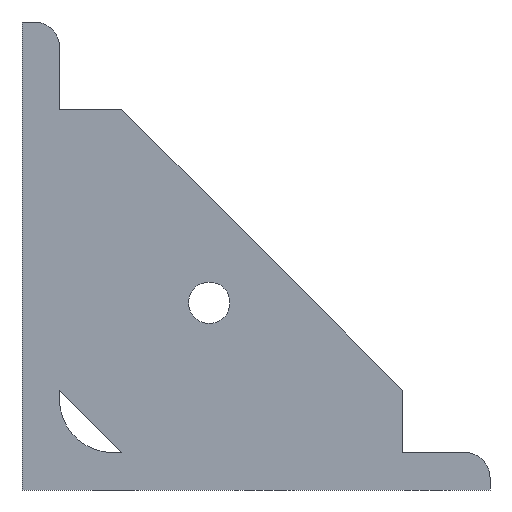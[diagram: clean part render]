
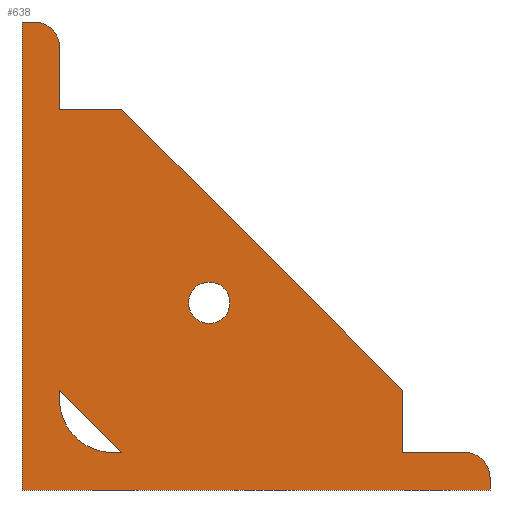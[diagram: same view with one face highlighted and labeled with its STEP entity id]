
A CAD part, left-side view. The second image highlights one B-rep face of the part: STEP entity #638.
In plain terms, the highlighted planar face has unit normal (-1, 0, 0).
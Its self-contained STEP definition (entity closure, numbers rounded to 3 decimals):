
#36=LINE('',#848,#77);
#40=LINE('',#856,#81);
#43=LINE('',#869,#84);
#47=LINE('',#877,#88);
#52=LINE('',#888,#93);
#54=LINE('',#898,#95);
#57=LINE('',#910,#98);
#60=LINE('',#916,#101);
#63=LINE('',#928,#104);
#64=LINE('',#932,#105);
#65=LINE('',#934,#106);
#66=LINE('',#935,#107);
#77=VECTOR('',#716,1000.);
#81=VECTOR('',#720,1000.);
#84=VECTOR('',#731,1000.);
#88=VECTOR('',#735,1000.);
#93=VECTOR('',#742,1000.);
#95=VECTOR('',#752,1000.);
#98=VECTOR('',#763,1000.);
#101=VECTOR('',#768,1000.);
#104=VECTOR('',#783,1000.);
#105=VECTOR('',#788,1000.);
#106=VECTOR('',#789,1000.);
#107=VECTOR('',#790,1000.);
#169=ORIENTED_EDGE('',*,*,#286,.T.);
#170=ORIENTED_EDGE('',*,*,#287,.F.);
#171=ORIENTED_EDGE('',*,*,#247,.F.);
#172=ORIENTED_EDGE('',*,*,#288,.T.);
#173=ORIENTED_EDGE('',*,*,#280,.F.);
#174=ORIENTED_EDGE('',*,*,#277,.F.);
#175=ORIENTED_EDGE('',*,*,#271,.F.);
#176=ORIENTED_EDGE('',*,*,#266,.F.);
#177=ORIENTED_EDGE('',*,*,#289,.T.);
#178=ORIENTED_EDGE('',*,*,#261,.F.);
#179=ORIENTED_EDGE('',*,*,#290,.F.);
#180=ORIENTED_EDGE('',*,*,#291,.F.);
#181=ORIENTED_EDGE('',*,*,#251,.F.);
#182=ORIENTED_EDGE('',*,*,#292,.F.);
#183=ORIENTED_EDGE('',*,*,#257,.F.);
#184=ORIENTED_EDGE('',*,*,#293,.T.);
#247=EDGE_CURVE('',#310,#311,#36,.T.);
#251=EDGE_CURVE('',#314,#305,#40,.T.);
#257=EDGE_CURVE('',#320,#321,#43,.T.);
#261=EDGE_CURVE('',#324,#325,#47,.T.);
#266=EDGE_CURVE('',#329,#330,#52,.T.);
#271=EDGE_CURVE('',#330,#334,#54,.T.);
#277=EDGE_CURVE('',#334,#339,#57,.T.);
#280=EDGE_CURVE('',#339,#341,#60,.T.);
#286=EDGE_CURVE('',#343,#343,#364,.T.);
#287=EDGE_CURVE('',#311,#344,#63,.T.);
#288=EDGE_CURVE('',#310,#341,#365,.T.);
#289=EDGE_CURVE('',#329,#325,#366,.T.);
#290=EDGE_CURVE('',#345,#324,#64,.T.);
#291=EDGE_CURVE('',#344,#345,#65,.T.);
#292=EDGE_CURVE('',#321,#314,#66,.T.);
#293=EDGE_CURVE('',#320,#305,#367,.F.);
#305=VERTEX_POINT('',#838);
#310=VERTEX_POINT('',#847);
#311=VERTEX_POINT('',#849);
#314=VERTEX_POINT('',#855);
#320=VERTEX_POINT('',#868);
#321=VERTEX_POINT('',#870);
#324=VERTEX_POINT('',#876);
#325=VERTEX_POINT('',#878);
#329=VERTEX_POINT('',#887);
#330=VERTEX_POINT('',#889);
#334=VERTEX_POINT('',#899);
#339=VERTEX_POINT('',#911);
#341=VERTEX_POINT('',#917);
#343=VERTEX_POINT('',#927);
#344=VERTEX_POINT('',#929);
#345=VERTEX_POINT('',#933);
#364=CIRCLE('',#682,3.324);
#365=CIRCLE('',#683,4.);
#366=CIRCLE('',#684,4.);
#367=CIRCLE('',#685,8.5);
#386=EDGE_LOOP('',(#169));
#387=EDGE_LOOP('',(#170,#171,#172,#173,#174,#175,#176,#177,#178,#179,#180));
#388=EDGE_LOOP('',(#181,#182,#183,#184));
#429=FACE_BOUND('',#386,.T.);
#430=FACE_BOUND('',#387,.T.);
#431=FACE_BOUND('',#388,.T.);
#462=PLANE('',#681);
#638=ADVANCED_FACE('',(#429,#430,#431),#462,.T.);
#681=AXIS2_PLACEMENT_3D('',#925,#779,#780);
#682=AXIS2_PLACEMENT_3D('',#926,#781,#782);
#683=AXIS2_PLACEMENT_3D('',#930,#784,#785);
#684=AXIS2_PLACEMENT_3D('',#931,#786,#787);
#685=AXIS2_PLACEMENT_3D('',#936,#791,#792);
#716=DIRECTION('',(0.,0.,-1.));
#720=DIRECTION('',(0.,0.,-1.));
#731=DIRECTION('',(0.,-1.,0.));
#735=DIRECTION('',(0.,-1.,0.));
#742=DIRECTION('',(0.,0.,-1.));
#752=DIRECTION('',(0.,1.,0.));
#763=DIRECTION('',(0.,0.,1.));
#768=DIRECTION('',(0.,-1.,0.));
#779=DIRECTION('',(-1.,0.,0.));
#780=DIRECTION('',(0.,0.,1.));
#781=DIRECTION('',(1.,0.,0.));
#782=DIRECTION('',(0.,0.,1.));
#783=DIRECTION('',(0.,-1.,0.));
#784=DIRECTION('',(-1.,0.,0.));
#785=DIRECTION('',(0.,0.,1.));
#786=DIRECTION('',(-1.,0.,0.));
#787=DIRECTION('',(0.,0.,1.));
#788=DIRECTION('',(0.,0.,-1.));
#789=DIRECTION('',(0.,-0.707,-0.707));
#790=DIRECTION('',(0.,0.707,0.707));
#791=DIRECTION('',(-1.,0.,0.));
#792=DIRECTION('',(0.,0.,1.));
#838=CARTESIAN_POINT('',(-14.5,-6.,14.5));
#847=CARTESIAN_POINT('',(-14.5,-6.,71.));
#848=CARTESIAN_POINT('',(-14.5,-6.,75.));
#849=CARTESIAN_POINT('',(-14.5,-6.,61.));
#855=CARTESIAN_POINT('',(-14.5,-6.,16.));
#856=CARTESIAN_POINT('',(-14.5,-6.,75.));
#868=CARTESIAN_POINT('',(-14.5,-14.5,6.));
#869=CARTESIAN_POINT('',(-14.5,-6.,6.));
#870=CARTESIAN_POINT('',(-14.5,-16.,6.));
#876=CARTESIAN_POINT('',(-14.5,-61.,6.));
#877=CARTESIAN_POINT('',(-14.5,-6.,6.));
#878=CARTESIAN_POINT('',(-14.5,-71.,6.));
#887=CARTESIAN_POINT('',(-14.5,-75.,2.));
#888=CARTESIAN_POINT('',(-14.5,-75.,6.));
#889=CARTESIAN_POINT('',(-14.5,-75.,0.));
#898=CARTESIAN_POINT('',(-14.5,-75.,0.));
#899=CARTESIAN_POINT('',(-14.5,0.,0.));
#910=CARTESIAN_POINT('',(-14.5,0.,0.));
#911=CARTESIAN_POINT('',(-14.5,0.,75.));
#916=CARTESIAN_POINT('',(-14.5,0.,75.));
#917=CARTESIAN_POINT('',(-14.5,-2.,75.));
#925=CARTESIAN_POINT('',(-14.5,0.,0.));
#926=CARTESIAN_POINT('',(-14.5,-30.,30.));
#927=CARTESIAN_POINT('',(-14.5,-30.,33.324));
#928=CARTESIAN_POINT('',(-14.5,-6.,61.));
#929=CARTESIAN_POINT('',(-14.5,-16.,61.));
#930=CARTESIAN_POINT('',(-14.5,-2.,71.));
#931=CARTESIAN_POINT('',(-14.5,-71.,2.));
#932=CARTESIAN_POINT('',(-14.5,-61.,16.));
#933=CARTESIAN_POINT('',(-14.5,-61.,16.));
#934=CARTESIAN_POINT('',(-14.5,-16.,61.));
#935=CARTESIAN_POINT('',(-14.5,-16.,6.));
#936=CARTESIAN_POINT('',(-14.5,-14.5,14.5));
